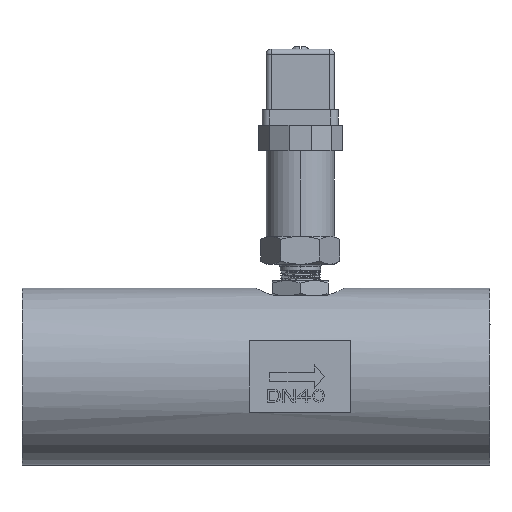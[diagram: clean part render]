
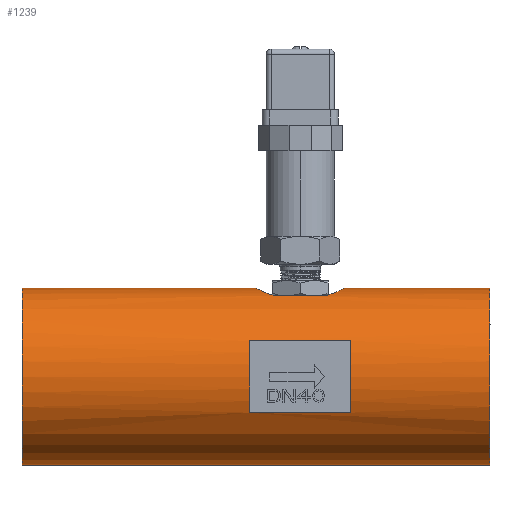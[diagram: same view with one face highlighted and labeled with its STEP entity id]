
A CAD part, left-side view. The second image highlights one B-rep face of the part: STEP entity #1239.
In plain terms, the highlighted cylindrical face has radius 35 mm (diameter 70 mm), a full revolution.
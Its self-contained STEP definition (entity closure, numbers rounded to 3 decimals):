
#212=B_SPLINE_CURVE_WITH_KNOTS('',3,(#16325,#16326,#16327,#16328,#16329,
#16330,#16331,#16332,#16333,#16334),.UNSPECIFIED.,.F.,.F.,(4,2,2,2,4),(0.,
0.25,0.5,0.75,1.),.UNSPECIFIED.);
#264=B_SPLINE_CURVE_WITH_KNOTS('',3,(#19214,#19215,#19216,#19217,#19218,
#19219,#19220,#19221,#19222,#19223),.UNSPECIFIED.,.F.,.F.,(4,2,2,2,4),(0.,
0.25,0.5,0.75,1.),.UNSPECIFIED.);
#408=CYLINDRICAL_SURFACE('',#9695,35.);
#1239=ADVANCED_FACE('',(#1963,#1964,#1965,#1966,#1967),#408,.T.);
#1893=CIRCLE('',#9688,35.);
#1894=CIRCLE('',#9690,35.);
#1895=CIRCLE('',#9691,35.);
#1896=CIRCLE('',#9692,35.);
#1897=CIRCLE('',#9693,35.);
#1898=CIRCLE('',#9694,35.);
#1963=FACE_BOUND('',#2387,.T.);
#1964=FACE_BOUND('',#2388,.T.);
#1965=FACE_BOUND('',#2389,.T.);
#1966=FACE_BOUND('',#2390,.T.);
#1967=FACE_BOUND('',#2391,.T.);
#2387=EDGE_LOOP('',(#4469));
#2388=EDGE_LOOP('',(#4470));
#2389=EDGE_LOOP('',(#4471,#4472,#4473,#4474));
#2390=EDGE_LOOP('',(#4475,#4476,#4477,#4478));
#2391=EDGE_LOOP('',(#4479,#4480,#4481,#4482));
#4469=ORIENTED_EDGE('',*,*,#6984,.T.);
#4470=ORIENTED_EDGE('',*,*,#6985,.T.);
#4471=ORIENTED_EDGE('',*,*,#6986,.F.);
#4472=ORIENTED_EDGE('',*,*,#6987,.T.);
#4473=ORIENTED_EDGE('',*,*,#6988,.F.);
#4474=ORIENTED_EDGE('',*,*,#6989,.T.);
#4475=ORIENTED_EDGE('',*,*,#6990,.T.);
#4476=ORIENTED_EDGE('',*,*,#6991,.F.);
#4477=ORIENTED_EDGE('',*,*,#6992,.T.);
#4478=ORIENTED_EDGE('',*,*,#6993,.F.);
#4479=ORIENTED_EDGE('',*,*,#6921,.F.);
#4480=ORIENTED_EDGE('',*,*,#6994,.F.);
#4481=ORIENTED_EDGE('',*,*,#6995,.F.);
#4482=ORIENTED_EDGE('',*,*,#6996,.F.);
#5745=VERTEX_POINT('',#16335);
#5746=VERTEX_POINT('',#16336);
#5788=VERTEX_POINT('',#19192);
#5789=VERTEX_POINT('',#19195);
#5790=VERTEX_POINT('',#19197);
#5791=VERTEX_POINT('',#19198);
#5792=VERTEX_POINT('',#19200);
#5793=VERTEX_POINT('',#19202);
#5794=VERTEX_POINT('',#19205);
#5795=VERTEX_POINT('',#19206);
#5796=VERTEX_POINT('',#19208);
#5797=VERTEX_POINT('',#19210);
#5798=VERTEX_POINT('',#19213);
#5799=VERTEX_POINT('',#19224);
#6921=EDGE_CURVE('',#5745,#5746,#212,.T.);
#6984=EDGE_CURVE('',#5788,#5788,#1893,.T.);
#6985=EDGE_CURVE('',#5789,#5789,#1894,.T.);
#6986=EDGE_CURVE('',#5790,#5791,#7935,.T.);
#6987=EDGE_CURVE('',#5790,#5792,#1895,.T.);
#6988=EDGE_CURVE('',#5793,#5792,#7936,.T.);
#6989=EDGE_CURVE('',#5793,#5791,#1896,.T.);
#6990=EDGE_CURVE('',#5794,#5795,#1897,.T.);
#6991=EDGE_CURVE('',#5796,#5795,#7937,.T.);
#6992=EDGE_CURVE('',#5796,#5797,#1898,.T.);
#6993=EDGE_CURVE('',#5794,#5797,#7938,.T.);
#6994=EDGE_CURVE('',#5798,#5745,#7939,.T.);
#6995=EDGE_CURVE('',#5799,#5798,#264,.T.);
#6996=EDGE_CURVE('',#5746,#5799,#7940,.T.);
#7935=LINE('',#19196,#8871);
#7936=LINE('',#19201,#8872);
#7937=LINE('',#19207,#8873);
#7938=LINE('',#19211,#8874);
#7939=LINE('',#19212,#8875);
#7940=LINE('',#19225,#8876);
#8871=VECTOR('',#11459,1.);
#8872=VECTOR('',#11462,1.);
#8873=VECTOR('',#11467,1.);
#8874=VECTOR('',#11470,1.);
#8875=VECTOR('',#11471,1.);
#8876=VECTOR('',#11472,1.);
#9688=AXIS2_PLACEMENT_3D('',#19191,#11453,#11454);
#9690=AXIS2_PLACEMENT_3D('',#19194,#11457,#11458);
#9691=AXIS2_PLACEMENT_3D('',#19199,#11460,#11461);
#9692=AXIS2_PLACEMENT_3D('',#19203,#11463,#11464);
#9693=AXIS2_PLACEMENT_3D('',#19204,#11465,#11466);
#9694=AXIS2_PLACEMENT_3D('',#19209,#11468,#11469);
#9695=AXIS2_PLACEMENT_3D('',#19226,#11473,#11474);
#11453=DIRECTION('',(0.,1.,0.));
#11454=DIRECTION('',(-1.,0.,0.));
#11457=DIRECTION('',(0.,-1.,0.));
#11458=DIRECTION('',(-1.,0.,0.));
#11459=DIRECTION('',(0.,-1.,0.));
#11460=DIRECTION('',(0.,1.,0.));
#11461=DIRECTION('',(1.,0.,0.));
#11462=DIRECTION('',(0.,1.,0.));
#11463=DIRECTION('',(0.,-1.,0.));
#11464=DIRECTION('',(0.914,0.,-0.405));
#11465=DIRECTION('',(0.,1.,0.));
#11466=DIRECTION('',(-0.914,0.,-0.405));
#11467=DIRECTION('',(0.,1.,0.));
#11468=DIRECTION('',(0.,-1.,0.));
#11469=DIRECTION('',(-1.,0.,0.));
#11470=DIRECTION('',(0.,-1.,0.));
#11471=DIRECTION('',(0.,-1.,0.));
#11472=DIRECTION('',(0.,1.,0.));
#11473=DIRECTION('',(0.,-1.,0.));
#11474=DIRECTION('',(1.,0.,0.));
#16325=CARTESIAN_POINT('',(11.323,26.141,-94.));
#16326=CARTESIAN_POINT('',(12.929,23.92,-93.288));
#16327=CARTESIAN_POINT('',(15.025,22.118,-92.512));
#16328=CARTESIAN_POINT('',(19.877,19.604,-91.365));
#16329=CARTESIAN_POINT('',(22.668,18.905,-91.002));
#16330=CARTESIAN_POINT('',(28.272,18.895,-90.998));
#16331=CARTESIAN_POINT('',(31.09,19.591,-91.358));
#16332=CARTESIAN_POINT('',(35.969,22.111,-92.509));
#16333=CARTESIAN_POINT('',(38.07,23.919,-93.288));
#16334=CARTESIAN_POINT('',(39.677,26.141,-94.));
#16335=CARTESIAN_POINT('',(11.323,26.141,-94.));
#16336=CARTESIAN_POINT('',(39.677,26.141,-94.));
#19191=CARTESIAN_POINT('',(25.5,-38.6,-126.));
#19192=CARTESIAN_POINT('',(-9.5,-38.6,-126.));
#19194=CARTESIAN_POINT('',(25.5,146.4,-126.));
#19195=CARTESIAN_POINT('',(-9.5,146.4,-126.));
#19196=CARTESIAN_POINT('',(57.5,56.4,-111.823));
#19197=CARTESIAN_POINT('',(57.5,56.4,-111.823));
#19198=CARTESIAN_POINT('',(57.5,16.4,-111.823));
#19199=CARTESIAN_POINT('',(25.5,56.4,-126.));
#19200=CARTESIAN_POINT('',(57.5,56.4,-140.177));
#19201=CARTESIAN_POINT('',(57.5,16.4,-140.177));
#19202=CARTESIAN_POINT('',(57.5,16.4,-140.177));
#19203=CARTESIAN_POINT('',(25.5,16.4,-126.));
#19204=CARTESIAN_POINT('',(25.5,56.4,-126.));
#19205=CARTESIAN_POINT('',(-6.5,56.4,-140.177));
#19206=CARTESIAN_POINT('',(-6.5,56.4,-111.823));
#19207=CARTESIAN_POINT('',(-6.5,16.4,-111.823));
#19208=CARTESIAN_POINT('',(-6.5,16.4,-111.823));
#19209=CARTESIAN_POINT('',(25.5,16.4,-126.));
#19210=CARTESIAN_POINT('',(-6.5,16.4,-140.177));
#19211=CARTESIAN_POINT('',(-6.5,56.4,-140.177));
#19212=CARTESIAN_POINT('',(11.323,46.659,-94.));
#19213=CARTESIAN_POINT('',(11.323,46.659,-94.));
#19214=CARTESIAN_POINT('',(39.677,46.659,-94.));
#19215=CARTESIAN_POINT('',(38.071,48.88,-93.288));
#19216=CARTESIAN_POINT('',(35.975,50.682,-92.512));
#19217=CARTESIAN_POINT('',(31.123,53.196,-91.365));
#19218=CARTESIAN_POINT('',(28.332,53.895,-91.002));
#19219=CARTESIAN_POINT('',(22.728,53.905,-90.998));
#19220=CARTESIAN_POINT('',(19.91,53.209,-91.358));
#19221=CARTESIAN_POINT('',(15.031,50.689,-92.509));
#19222=CARTESIAN_POINT('',(12.93,48.881,-93.288));
#19223=CARTESIAN_POINT('',(11.323,46.659,-94.));
#19224=CARTESIAN_POINT('',(39.677,46.659,-94.));
#19225=CARTESIAN_POINT('',(39.677,26.141,-94.));
#19226=CARTESIAN_POINT('',(25.5,155.65,-126.));
